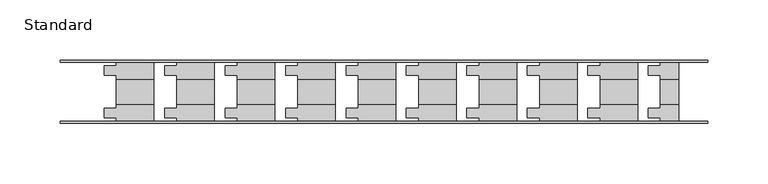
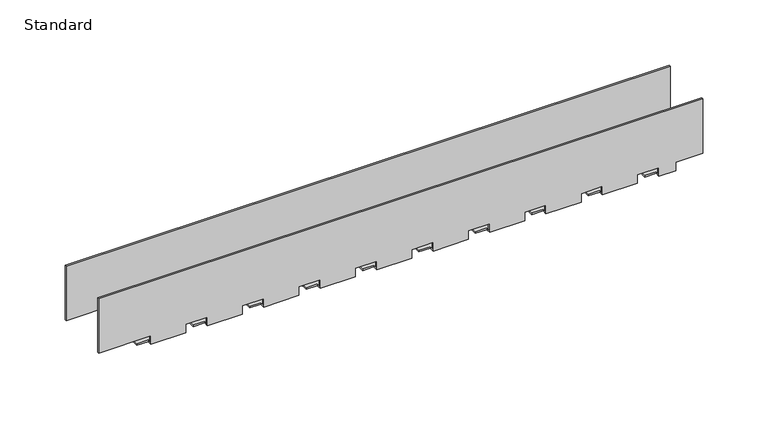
"""IFC4 building model written with IfcOpenShell, lengths in millimetres: electric appliance geometry, Bracket-Cross_Bar-Cablofil : Standard."""

from ifc_helpers import new_model, si_unit, origin, place, context, project, spatial, faceted_brep, source, transform, mapped, element, save


def standard_51789b41(model_context):
    return source(origin(), model_context, "Body", "Brep", [
        faceted_brep([(267.3769456, 25.8445, 56.5), (267.3769456, 24.2445, 56.5), (267.3769456, 24.2445, 5.4905759), (267.3769456, 25.8445, 5.4905759), (267.3769456, -24.2445, 56.5), (267.3769456, -25.8445, 56.5), (267.3769456, -25.8445, 5.4905759), (267.3769456, -24.2445, 5.4905759), (-267.3769456, -25.8445, 56.5), (-267.3769456, -24.2445, 56.5), (-267.3769456, -24.2445, 5.4905759), (-267.3769456, -25.8445, 5.4905759), (-267.3769456, 24.2445, 56.5), (-267.3769456, 25.8445, 56.5), (-267.3769456, 25.8445, 5.4905759), (-267.3769456, 24.2445, 5.4905759), (-221.3269456, -25.8445, 5.4905759), (-221.3269456, -25.8445, -2.5), (-190.3269456, -25.8445, -2.5), (-190.3269456, -25.8445, 5.4905759), (-171.3269456, -25.8445, 5.4905759), (-171.3269456, -25.8445, -2.5), (-140.3269456, -25.8445, -2.5), (-140.3269456, -25.8445, 5.4905759), (-121.3269456, -25.8445, 5.4905759), (-121.3269456, -25.8445, -2.5), (-90.3269456, -25.8445, -2.5), (-90.3269456, -25.8445, 5.4905759), (-71.3269456, -25.8445, 5.4905759), (-71.3269456, -25.8445, -2.5), (-40.3269456, -25.8445, -2.5), (-40.3269456, -25.8445, 5.4905759), (-21.3269456, -25.8445, 5.4905759), (-21.3269456, -25.8445, -2.5), (9.525, -25.8445, -2.5), (9.525, -25.8445, 5.4905759), (28.525, -25.8445, 5.4905759), (28.525, -25.8445, -2.5), (59.525, -25.8445, -2.5), (59.525, -25.8445, 5.4905759), (78.525, -25.8445, 5.4905759), (78.525, -25.8445, -2.5), (109.525, -25.8445, -2.5), (109.525, -25.8445, 5.4905759), (128.525, -25.8445, 5.4905759), (128.525, -25.8445, -2.5), (159.525, -25.8445, -2.5), (159.525, -25.8445, 5.4905759), (178.525, -25.8445, 5.4905759), (178.525, -25.8445, -2.5), (209.525, -25.8445, -2.5), (209.525, -25.8445, 5.4905759), (228.525, -25.8445, 5.4905759), (228.525, -25.8445, -2.5), (243.525, -25.8445, -2.5), (243.525, -25.8445, 5.4905759), (-221.3269456, -21.4945, -2.5), (-231.3269456, -21.4945, -2.5), (-231.3269456, -13.4945, -2.5), (-221.3269456, -13.4945, -2.5), (-221.3269456, -8.5094634, -2.5), (-190.3269456, -8.5094634, -2.5), (-171.3269456, -21.4945, -2.5), (-181.3269456, -21.4945, -2.5), (-181.3269456, -13.4945, -2.5), (-171.3269456, -13.4945, -2.5), (-171.3269456, -8.5094634, -2.5), (-140.3269456, -8.5094634, -2.5), (-121.3269456, -21.4945, -2.5), (-131.3269456, -21.4945, -2.5), (-131.3269456, -13.4945, -2.5), (-121.3269456, -13.4945, -2.5), (-121.3269456, -8.5094634, -2.5), (-90.3269456, -8.5094634, -2.5), (-71.3269456, -21.4945, -2.5), (-81.3269456, -21.4945, -2.5), (-81.3269456, -13.4945, -2.5), (-71.3269456, -13.4945, -2.5), (-71.3269456, -8.5094634, -2.5), (-40.3269456, -8.5094634, -2.5), (-21.3269456, -21.4945, -2.5), (-31.3269456, -21.4945, -2.5), (-31.3269456, -13.4945, -2.5), (-21.3269456, -13.4945, -2.5), (-21.3269456, -8.5094634, -2.5), (9.525, -8.5094634, -2.5), (28.525, -21.4945, -2.5), (18.525, -21.4945, -2.5), (18.525, -13.4945, -2.5), (28.525, -13.4945, -2.5), (28.525, -8.5094634, -2.5), (59.525, -8.5094634, -2.5), (78.525, -21.4945, -2.5), (68.525, -21.4945, -2.5), (68.525, -13.4945, -2.5), (78.525, -13.4945, -2.5), (78.525, -8.5094634, -2.5), (109.525, -8.5094634, -2.5), (128.525, -21.4945, -2.5), (118.525, -21.4945, -2.5), (118.525, -13.4945, -2.5), (128.525, -13.4945, -2.5), (128.525, -8.5094634, -2.5), (159.525, -8.5094634, -2.5), (178.525, -21.4945, -2.5), (168.525, -21.4945, -2.5), (168.525, -13.4945, -2.5), (178.525, -13.4945, -2.5), (178.525, -8.5094634, -2.5), (209.525, -8.5094634, -2.5), (228.525, -21.4945, -2.5), (218.525, -21.4945, -2.5), (218.525, -13.4945, -2.5), (228.525, -13.4945, -2.5), (228.525, -8.5094634, -2.5), (243.525, -8.5094634, -2.5), (-190.3269456, -8.5094634, 0.0), (-221.3269456, -8.5094634, 0.0), (-221.3269456, 8.5094634, 0.0), (-190.3269456, 8.5094634, 0.0), (-140.3269456, -8.5094634, 0.0), (-171.3269456, -8.5094634, 0.0), (-171.3269456, 8.5094634, 0.0), (-140.3269456, 8.5094634, 0.0), (-90.3269456, -8.5094634, 0.0), (-121.3269456, -8.5094634, 0.0), (-121.3269456, 8.5094634, 0.0), (-90.3269456, 8.5094634, 0.0), (-40.3269456, -8.5094634, 0.0), (-71.3269456, -8.5094634, 0.0), (-71.3269456, 8.5094634, 0.0), (-40.3269456, 8.5094634, 0.0), (9.525, -8.5094634, 0.0), (-21.3269456, -8.5094634, 0.0), (-21.3269456, 8.5094634, 0.0), (9.525, 8.5094634, 0.0), (59.525, -8.5094634, 0.0), (28.525, -8.5094634, 0.0), (28.525, 8.5094634, 0.0), (59.525, 8.5094634, 0.0), (109.525, -8.5094634, 0.0), (78.525, -8.5094634, 0.0), (78.525, 8.5094634, 0.0), (109.525, 8.5094634, 0.0), (159.525, -8.5094634, 0.0), (128.525, -8.5094634, 0.0), (128.525, 8.5094634, 0.0), (159.525, 8.5094634, 0.0), (209.525, -8.5094634, 0.0), (178.525, -8.5094634, 0.0), (178.525, 8.5094634, 0.0), (209.525, 8.5094634, 0.0), (243.525, -8.5094634, 0.0), (228.525, -8.5094634, 0.0), (228.525, 8.5094634, 0.0), (243.525, 8.5094634, 0.0), (-190.3269456, 8.5094634, -2.5), (-221.3269456, 8.5094634, -2.5), (-221.3269456, 13.4945, -2.5), (-231.3269456, 13.4945, -2.5), (-231.3269456, 21.4945, -2.5), (-221.3269456, 21.4945, -2.5), (-221.3269456, 25.8445, -2.5), (-190.3269456, 25.8445, -2.5), (-140.3269456, 8.5094634, -2.5), (-171.3269456, 8.5094634, -2.5), (-171.3269456, 13.4945, -2.5), (-181.3269456, 13.4945, -2.5), (-181.3269456, 21.4945, -2.5), (-171.3269456, 21.4945, -2.5), (-171.3269456, 25.8445, -2.5), (-140.3269456, 25.8445, -2.5), (-90.3269456, 8.5094634, -2.5), (-121.3269456, 8.5094634, -2.5), (-121.3269456, 13.4945, -2.5), (-131.3269456, 13.4945, -2.5), (-131.3269456, 21.4945, -2.5), (-121.3269456, 21.4945, -2.5), (-121.3269456, 25.8445, -2.5), (-90.3269456, 25.8445, -2.5), (-40.3269456, 8.5094634, -2.5), (-71.3269456, 8.5094634, -2.5), (-71.3269456, 13.4945, -2.5), (-81.3269456, 13.4945, -2.5), (-81.3269456, 21.4945, -2.5), (-71.3269456, 21.4945, -2.5), (-71.3269456, 25.8445, -2.5), (-40.3269456, 25.8445, -2.5), (9.525, 8.5094634, -2.5), (-21.3269456, 8.5094634, -2.5), (-21.3269456, 13.4945, -2.5), (-31.3269456, 13.4945, -2.5), (-31.3269456, 21.4945, -2.5), (-21.3269456, 21.4945, -2.5), (-21.3269456, 25.8445, -2.5), (9.525, 25.8445, -2.5), (59.525, 8.5094634, -2.5), (28.525, 8.5094634, -2.5), (28.525, 13.4945, -2.5), (18.525, 13.4945, -2.5), (18.525, 21.4945, -2.5), (28.525, 21.4945, -2.5), (28.525, 25.8445, -2.5), (59.525, 25.8445, -2.5), (109.525, 8.5094634, -2.5), (78.525, 8.5094634, -2.5), (78.525, 13.4945, -2.5), (68.525, 13.4945, -2.5), (68.525, 21.4945, -2.5), (78.525, 21.4945, -2.5), (78.525, 25.8445, -2.5), (109.525, 25.8445, -2.5), (159.525, 8.5094634, -2.5), (128.525, 8.5094634, -2.5), (128.525, 13.4945, -2.5), (118.525, 13.4945, -2.5), (118.525, 21.4945, -2.5), (128.525, 21.4945, -2.5), (128.525, 25.8445, -2.5), (159.525, 25.8445, -2.5), (209.525, 8.5094634, -2.5), (178.525, 8.5094634, -2.5), (178.525, 13.4945, -2.5), (168.525, 13.4945, -2.5), (168.525, 21.4945, -2.5), (178.525, 21.4945, -2.5), (178.525, 25.8445, -2.5), (209.525, 25.8445, -2.5), (243.525, 8.5094634, -2.5), (228.525, 8.5094634, -2.5), (228.525, 13.4945, -2.5), (218.525, 13.4945, -2.5), (218.525, 21.4945, -2.5), (228.525, 21.4945, -2.5), (228.525, 25.8445, -2.5), (243.525, 25.8445, -2.5), (243.525, 25.8445, 5.4905759), (228.525, 25.8445, 5.4905759), (209.525, 25.8445, 5.4905759), (178.525, 25.8445, 5.4905759), (159.525, 25.8445, 5.4905759), (128.525, 25.8445, 5.4905759), (109.525, 25.8445, 5.4905759), (78.525, 25.8445, 5.4905759), (59.525, 25.8445, 5.4905759), (28.525, 25.8445, 5.4905759), (9.525, 25.8445, 5.4905759), (-21.3269456, 25.8445, 5.4905759), (-40.3269456, 25.8445, 5.4905759), (-71.3269456, 25.8445, 5.4905759), (-90.3269456, 25.8445, 5.4905759), (-121.3269456, 25.8445, 5.4905759), (-140.3269456, 25.8445, 5.4905759), (-171.3269456, 25.8445, 5.4905759), (-190.3269456, 25.8445, 5.4905759), (-221.3269456, 25.8445, 5.4905759), (-221.3269456, 24.2445, 5.4905759), (-221.3269456, 24.2445, -0.9), (-190.3269456, 24.2445, -0.9), (-190.3269456, 24.2445, 5.4905759), (-171.3269456, 24.2445, 5.4905759), (-171.3269456, 24.2445, -0.9), (-140.3269456, 24.2445, -0.9), (-140.3269456, 24.2445, 5.4905759), (-121.3269456, 24.2445, 5.4905759), (-121.3269456, 24.2445, -0.9), (-90.3269456, 24.2445, -0.9), (-90.3269456, 24.2445, 5.4905759), (-71.3269456, 24.2445, 5.4905759), (-71.3269456, 24.2445, -0.9), (-40.3269456, 24.2445, -0.9), (-40.3269456, 24.2445, 5.4905759), (-21.3269456, 24.2445, 5.4905759), (-21.3269456, 24.2445, -0.9), (9.525, 24.2445, -0.9), (9.525, 24.2445, 5.4905759), (28.525, 24.2445, 5.4905759), (28.525, 24.2445, -0.9), (59.525, 24.2445, -0.9), (59.525, 24.2445, 5.4905759), (78.525, 24.2445, 5.4905759), (78.525, 24.2445, -0.9), (109.525, 24.2445, -0.9), (109.525, 24.2445, 5.4905759), (128.525, 24.2445, 5.4905759), (128.525, 24.2445, -0.9), (159.525, 24.2445, -0.9), (159.525, 24.2445, 5.4905759), (178.525, 24.2445, 5.4905759), (178.525, 24.2445, -0.9), (209.525, 24.2445, -0.9), (209.525, 24.2445, 5.4905759), (228.525, 24.2445, 5.4905759), (228.525, 24.2445, -0.9), (243.525, 24.2445, -0.9), (243.525, 24.2445, 5.4905759), (-221.3269456, 21.4945, -0.9), (-231.3269456, 21.4945, -0.9), (-231.3269456, 13.4945, -0.9), (-221.3269456, 13.4945, -0.9), (-221.3269456, 10.1096634, -0.9), (-190.3269456, 10.1096634, -0.9), (-171.3269456, 21.4945, -0.9), (-181.3269456, 21.4945, -0.9), (-181.3269456, 13.4945, -0.9), (-171.3269456, 13.4945, -0.9), (-171.3269456, 10.1096634, -0.9), (-140.3269456, 10.1096634, -0.9), (-121.3269456, 21.4945, -0.9), (-131.3269456, 21.4945, -0.9), (-131.3269456, 13.4945, -0.9), (-121.3269456, 13.4945, -0.9), (-121.3269456, 10.1096634, -0.9), (-90.3269456, 10.1096634, -0.9), (-71.3269456, 21.4945, -0.9), (-81.3269456, 21.4945, -0.9), (-81.3269456, 13.4945, -0.9), (-71.3269456, 13.4945, -0.9), (-71.3269456, 10.1096634, -0.9), (-40.3269456, 10.1096634, -0.9), (-21.3269456, 21.4945, -0.9), (-31.3269456, 21.4945, -0.9), (-31.3269456, 13.4945, -0.9), (-21.3269456, 13.4945, -0.9), (-21.3269456, 10.1096634, -0.9), (9.525, 10.1096634, -0.9), (28.525, 21.4945, -0.9), (18.525, 21.4945, -0.9), (18.525, 13.4945, -0.9), (28.525, 13.4945, -0.9), (28.525, 10.1096634, -0.9), (59.525, 10.1096634, -0.9), (78.525, 21.4945, -0.9), (68.525, 21.4945, -0.9), (68.525, 13.4945, -0.9), (78.525, 13.4945, -0.9), (78.525, 10.1096634, -0.9), (109.525, 10.1096634, -0.9), (128.525, 21.4945, -0.9), (118.525, 21.4945, -0.9), (118.525, 13.4945, -0.9), (128.525, 13.4945, -0.9), (128.525, 10.1096634, -0.9), (159.525, 10.1096634, -0.9), (178.525, 21.4945, -0.9), (168.525, 21.4945, -0.9), (168.525, 13.4945, -0.9), (178.525, 13.4945, -0.9), (178.525, 10.1096634, -0.9), (209.525, 10.1096634, -0.9), (228.525, 21.4945, -0.9), (218.525, 21.4945, -0.9), (218.525, 13.4945, -0.9), (228.525, 13.4945, -0.9), (228.525, 10.1096634, -0.9), (243.525, 10.1096634, -0.9), (-190.3269456, 10.1096634, 1.6), (-221.3269456, 10.1096634, 1.6), (-221.3269456, -10.1096634, 1.6), (-190.3269456, -10.1096634, 1.6), (-140.3269456, 10.1096634, 1.6), (-171.3269456, 10.1096634, 1.6), (-171.3269456, -10.1096634, 1.6), (-140.3269456, -10.1096634, 1.6), (-90.3269456, 10.1096634, 1.6), (-121.3269456, 10.1096634, 1.6), (-121.3269456, -10.1096634, 1.6), (-90.3269456, -10.1096634, 1.6), (-40.3269456, 10.1096634, 1.6), (-71.3269456, 10.1096634, 1.6), (-71.3269456, -10.1096634, 1.6), (-40.3269456, -10.1096634, 1.6), (9.525, 10.1096634, 1.6), (-21.3269456, 10.1096634, 1.6), (-21.3269456, -10.1096634, 1.6), (9.525, -10.1096634, 1.6), (59.525, 10.1096634, 1.6), (28.525, 10.1096634, 1.6), (28.525, -10.1096634, 1.6), (59.525, -10.1096634, 1.6), (109.525, 10.1096634, 1.6), (78.525, 10.1096634, 1.6), (78.525, -10.1096634, 1.6), (109.525, -10.1096634, 1.6), (159.525, 10.1096634, 1.6), (128.525, 10.1096634, 1.6), (128.525, -10.1096634, 1.6), (159.525, -10.1096634, 1.6), (209.525, 10.1096634, 1.6), (178.525, 10.1096634, 1.6), (178.525, -10.1096634, 1.6), (209.525, -10.1096634, 1.6), (243.525, 10.1096634, 1.6), (228.525, 10.1096634, 1.6), (228.525, -10.1096634, 1.6), (243.525, -10.1096634, 1.6), (-190.3269456, -10.1096634, -0.9), (-221.3269456, -10.1096634, -0.9), (-221.3269456, -13.4945, -0.9), (-231.3269456, -13.4945, -0.9), (-231.3269456, -21.4945, -0.9), (-221.3269456, -21.4945, -0.9), (-221.3269456, -24.2445, -0.9), (-190.3269456, -24.2445, -0.9), (-140.3269456, -10.1096634, -0.9), (-171.3269456, -10.1096634, -0.9), (-171.3269456, -13.4945, -0.9), (-181.3269456, -13.4945, -0.9), (-181.3269456, -21.4945, -0.9), (-171.3269456, -21.4945, -0.9), (-171.3269456, -24.2445, -0.9), (-140.3269456, -24.2445, -0.9), (-90.3269456, -10.1096634, -0.9), (-121.3269456, -10.1096634, -0.9), (-121.3269456, -13.4945, -0.9), (-131.3269456, -13.4945, -0.9), (-131.3269456, -21.4945, -0.9), (-121.3269456, -21.4945, -0.9), (-121.3269456, -24.2445, -0.9), (-90.3269456, -24.2445, -0.9), (-40.3269456, -10.1096634, -0.9), (-71.3269456, -10.1096634, -0.9), (-71.3269456, -13.4945, -0.9), (-81.3269456, -13.4945, -0.9), (-81.3269456, -21.4945, -0.9), (-71.3269456, -21.4945, -0.9), (-71.3269456, -24.2445, -0.9), (-40.3269456, -24.2445, -0.9), (9.525, -10.1096634, -0.9), (-21.3269456, -10.1096634, -0.9), (-21.3269456, -13.4945, -0.9), (-31.3269456, -13.4945, -0.9), (-31.3269456, -21.4945, -0.9), (-21.3269456, -21.4945, -0.9), (-21.3269456, -24.2445, -0.9), (9.525, -24.2445, -0.9), (59.525, -10.1096634, -0.9), (28.525, -10.1096634, -0.9), (28.525, -13.4945, -0.9), (18.525, -13.4945, -0.9), (18.525, -21.4945, -0.9), (28.525, -21.4945, -0.9), (28.525, -24.2445, -0.9), (59.525, -24.2445, -0.9), (109.525, -10.1096634, -0.9), (78.525, -10.1096634, -0.9), (78.525, -13.4945, -0.9), (68.525, -13.4945, -0.9), (68.525, -21.4945, -0.9), (78.525, -21.4945, -0.9), (78.525, -24.2445, -0.9), (109.525, -24.2445, -0.9), (159.525, -10.1096634, -0.9), (128.525, -10.1096634, -0.9), (128.525, -13.4945, -0.9), (118.525, -13.4945, -0.9), (118.525, -21.4945, -0.9), (128.525, -21.4945, -0.9), (128.525, -24.2445, -0.9), (159.525, -24.2445, -0.9), (209.525, -10.1096634, -0.9), (178.525, -10.1096634, -0.9), (178.525, -13.4945, -0.9), (168.525, -13.4945, -0.9), (168.525, -21.4945, -0.9), (178.525, -21.4945, -0.9), (178.525, -24.2445, -0.9), (209.525, -24.2445, -0.9), (243.525, -10.1096634, -0.9), (228.525, -10.1096634, -0.9), (228.525, -13.4945, -0.9), (218.525, -13.4945, -0.9), (218.525, -21.4945, -0.9), (228.525, -21.4945, -0.9), (228.525, -24.2445, -0.9), (243.525, -24.2445, -0.9), (243.525, -24.2445, 5.4905759), (228.525, -24.2445, 5.4905759), (209.525, -24.2445, 5.4905759), (178.525, -24.2445, 5.4905759), (159.525, -24.2445, 5.4905759), (128.525, -24.2445, 5.4905759), (109.525, -24.2445, 5.4905759), (78.525, -24.2445, 5.4905759), (59.525, -24.2445, 5.4905759), (28.525, -24.2445, 5.4905759), (9.525, -24.2445, 5.4905759), (-21.3269456, -24.2445, 5.4905759), (-40.3269456, -24.2445, 5.4905759), (-71.3269456, -24.2445, 5.4905759), (-90.3269456, -24.2445, 5.4905759), (-121.3269456, -24.2445, 5.4905759), (-140.3269456, -24.2445, 5.4905759), (-171.3269456, -24.2445, 5.4905759), (-190.3269456, -24.2445, 5.4905759), (-221.3269456, -24.2445, 5.4905759)], [[[0, 1, 2, 3]], [[4, 5, 6, 7]], [[8, 9, 10, 11]], [[12, 13, 14, 15]], [[5, 8, 11, 16, 17, 18, 19, 20, 21, 22, 23, 24, 25, 26, 27, 28, 29, 30, 31, 32, 33, 34, 35, 36, 37, 38, 39, 40, 41, 42, 43, 44, 45, 46, 47, 48, 49, 50, 51, 52, 53, 54, 55, 6]], [[18, 17, 56, 57, 58, 59, 60, 61]], [[22, 21, 62, 63, 64, 65, 66, 67]], [[26, 25, 68, 69, 70, 71, 72, 73]], [[30, 29, 74, 75, 76, 77, 78, 79]], [[34, 33, 80, 81, 82, 83, 84, 85]], [[38, 37, 86, 87, 88, 89, 90, 91]], [[42, 41, 92, 93, 94, 95, 96, 97]], [[46, 45, 98, 99, 100, 101, 102, 103]], [[50, 49, 104, 105, 106, 107, 108, 109]], [[54, 53, 110, 111, 112, 113, 114, 115]], [[116, 117, 118, 119]], [[120, 121, 122, 123]], [[124, 125, 126, 127]], [[128, 129, 130, 131]], [[132, 133, 134, 135]], [[136, 137, 138, 139]], [[140, 141, 142, 143]], [[144, 145, 146, 147]], [[148, 149, 150, 151]], [[152, 153, 154, 155]], [[156, 157, 158, 159, 160, 161, 162, 163]], [[164, 165, 166, 167, 168, 169, 170, 171]], [[172, 173, 174, 175, 176, 177, 178, 179]], [[180, 181, 182, 183, 184, 185, 186, 187]], [[188, 189, 190, 191, 192, 193, 194, 195]], [[196, 197, 198, 199, 200, 201, 202, 203]], [[204, 205, 206, 207, 208, 209, 210, 211]], [[212, 213, 214, 215, 216, 217, 218, 219]], [[220, 221, 222, 223, 224, 225, 226, 227]], [[228, 229, 230, 231, 232, 233, 234, 235]], [[13, 0, 3, 236, 235, 234, 237, 238, 227, 226, 239, 240, 219, 218, 241, 242, 211, 210, 243, 244, 203, 202, 245, 246, 195, 194, 247, 248, 187, 186, 249, 250, 179, 178, 251, 252, 171, 170, 253, 254, 163, 162, 255, 14]], [[1, 0, 13, 12]], [[1, 12, 15, 256, 257, 258, 259, 260, 261, 262, 263, 264, 265, 266, 267, 268, 269, 270, 271, 272, 273, 274, 275, 276, 277, 278, 279, 280, 281, 282, 283, 284, 285, 286, 287, 288, 289, 290, 291, 292, 293, 294, 295, 2]], [[258, 257, 296, 297, 298, 299, 300, 301]], [[262, 261, 302, 303, 304, 305, 306, 307]], [[266, 265, 308, 309, 310, 311, 312, 313]], [[270, 269, 314, 315, 316, 317, 318, 319]], [[274, 273, 320, 321, 322, 323, 324, 325]], [[278, 277, 326, 327, 328, 329, 330, 331]], [[282, 281, 332, 333, 334, 335, 336, 337]], [[286, 285, 338, 339, 340, 341, 342, 343]], [[290, 289, 344, 345, 346, 347, 348, 349]], [[294, 293, 350, 351, 352, 353, 354, 355]], [[356, 357, 358, 359]], [[360, 361, 362, 363]], [[364, 365, 366, 367]], [[368, 369, 370, 371]], [[372, 373, 374, 375]], [[376, 377, 378, 379]], [[380, 381, 382, 383]], [[384, 385, 386, 387]], [[388, 389, 390, 391]], [[392, 393, 394, 395]], [[396, 397, 398, 399, 400, 401, 402, 403]], [[404, 405, 406, 407, 408, 409, 410, 411]], [[412, 413, 414, 415, 416, 417, 418, 419]], [[420, 421, 422, 423, 424, 425, 426, 427]], [[428, 429, 430, 431, 432, 433, 434, 435]], [[436, 437, 438, 439, 440, 441, 442, 443]], [[444, 445, 446, 447, 448, 449, 450, 451]], [[452, 453, 454, 455, 456, 457, 458, 459]], [[460, 461, 462, 463, 464, 465, 466, 467]], [[468, 469, 470, 471, 472, 473, 474, 475]], [[9, 4, 7, 476, 475, 474, 477, 478, 467, 466, 479, 480, 459, 458, 481, 482, 451, 450, 483, 484, 443, 442, 485, 486, 435, 434, 487, 488, 427, 426, 489, 490, 419, 418, 491, 492, 411, 410, 493, 494, 403, 402, 495, 10]], [[5, 4, 9, 8]], [[255, 256, 15, 14]], [[495, 16, 11, 10]], [[493, 20, 19, 494]], [[259, 254, 253, 260]], [[491, 24, 23, 492]], [[263, 252, 251, 264]], [[489, 28, 27, 490]], [[267, 250, 249, 268]], [[487, 32, 31, 488]], [[271, 248, 247, 272]], [[485, 36, 35, 486]], [[275, 246, 245, 276]], [[483, 40, 39, 484]], [[279, 244, 243, 280]], [[481, 44, 43, 482]], [[283, 242, 241, 284]], [[479, 48, 47, 480]], [[287, 240, 239, 288]], [[477, 52, 51, 478]], [[291, 238, 237, 292]], [[295, 236, 3, 2]], [[55, 476, 7, 6]], [[256, 255, 162, 161, 296, 257]], [[296, 161, 160, 297]], [[297, 160, 159, 298]], [[298, 159, 158, 299]], [[299, 158, 157, 118, 117, 60, 59, 398, 397, 358, 357, 300]], [[254, 259, 258, 301, 356, 359, 396, 403, 494, 19, 18, 61, 116, 119, 156, 163]], [[260, 253, 170, 169, 302, 261]], [[302, 169, 168, 303]], [[303, 168, 167, 304]], [[304, 167, 166, 305]], [[305, 166, 165, 122, 121, 66, 65, 406, 405, 362, 361, 306]], [[252, 263, 262, 307, 360, 363, 404, 411, 492, 23, 22, 67, 120, 123, 164, 171]], [[264, 251, 178, 177, 308, 265]], [[308, 177, 176, 309]], [[309, 176, 175, 310]], [[310, 175, 174, 311]], [[311, 174, 173, 126, 125, 72, 71, 414, 413, 366, 365, 312]], [[250, 267, 266, 313, 364, 367, 412, 419, 490, 27, 26, 73, 124, 127, 172, 179]], [[268, 249, 186, 185, 314, 269]], [[314, 185, 184, 315]], [[315, 184, 183, 316]], [[316, 183, 182, 317]], [[317, 182, 181, 130, 129, 78, 77, 422, 421, 370, 369, 318]], [[248, 271, 270, 319, 368, 371, 420, 427, 488, 31, 30, 79, 128, 131, 180, 187]], [[272, 247, 194, 193, 320, 273]], [[320, 193, 192, 321]], [[321, 192, 191, 322]], [[322, 191, 190, 323]], [[323, 190, 189, 134, 133, 84, 83, 430, 429, 374, 373, 324]], [[246, 275, 274, 325, 372, 375, 428, 435, 486, 35, 34, 85, 132, 135, 188, 195]], [[276, 245, 202, 201, 326, 277]], [[326, 201, 200, 327]], [[327, 200, 199, 328]], [[328, 199, 198, 329]], [[329, 198, 197, 138, 137, 90, 89, 438, 437, 378, 377, 330]], [[244, 279, 278, 331, 376, 379, 436, 443, 484, 39, 38, 91, 136, 139, 196, 203]], [[280, 243, 210, 209, 332, 281]], [[332, 209, 208, 333]], [[333, 208, 207, 334]], [[334, 207, 206, 335]], [[335, 206, 205, 142, 141, 96, 95, 446, 445, 382, 381, 336]], [[242, 283, 282, 337, 380, 383, 444, 451, 482, 43, 42, 97, 140, 143, 204, 211]], [[284, 241, 218, 217, 338, 285]], [[338, 217, 216, 339]], [[339, 216, 215, 340]], [[340, 215, 214, 341]], [[341, 214, 213, 146, 145, 102, 101, 454, 453, 386, 385, 342]], [[240, 287, 286, 343, 384, 387, 452, 459, 480, 47, 46, 103, 144, 147, 212, 219]], [[288, 239, 226, 225, 344, 289]], [[344, 225, 224, 345]], [[345, 224, 223, 346]], [[346, 223, 222, 347]], [[347, 222, 221, 150, 149, 108, 107, 462, 461, 390, 389, 348]], [[238, 291, 290, 349, 388, 391, 460, 467, 478, 51, 50, 109, 148, 151, 220, 227]], [[292, 237, 234, 233, 350, 293]], [[350, 233, 232, 351]], [[351, 232, 231, 352]], [[352, 231, 230, 353]], [[353, 230, 229, 154, 153, 114, 113, 470, 469, 394, 393, 354]], [[236, 295, 294, 355, 392, 395, 468, 475, 476, 55, 54, 115, 152, 155, 228, 235]], [[117, 116, 61, 60]], [[121, 120, 67, 66]], [[125, 124, 73, 72]], [[129, 128, 79, 78]], [[133, 132, 85, 84]], [[137, 136, 91, 90]], [[141, 140, 97, 96]], [[145, 144, 103, 102]], [[149, 148, 109, 108]], [[153, 152, 115, 114]], [[157, 156, 119, 118]], [[165, 164, 123, 122]], [[173, 172, 127, 126]], [[181, 180, 131, 130]], [[189, 188, 135, 134]], [[197, 196, 139, 138]], [[205, 204, 143, 142]], [[213, 212, 147, 146]], [[221, 220, 151, 150]], [[229, 228, 155, 154]], [[357, 356, 301, 300]], [[361, 360, 307, 306]], [[365, 364, 313, 312]], [[369, 368, 319, 318]], [[373, 372, 325, 324]], [[377, 376, 331, 330]], [[381, 380, 337, 336]], [[385, 384, 343, 342]], [[389, 388, 349, 348]], [[393, 392, 355, 354]], [[397, 396, 359, 358]], [[405, 404, 363, 362]], [[413, 412, 367, 366]], [[421, 420, 371, 370]], [[429, 428, 375, 374]], [[437, 436, 379, 378]], [[445, 444, 383, 382]], [[453, 452, 387, 386]], [[461, 460, 391, 390]], [[469, 468, 395, 394]], [[398, 59, 58, 399]], [[399, 58, 57, 400]], [[400, 57, 56, 401]], [[16, 495, 402, 401, 56, 17]], [[406, 65, 64, 407]], [[407, 64, 63, 408]], [[408, 63, 62, 409]], [[20, 493, 410, 409, 62, 21]], [[414, 71, 70, 415]], [[415, 70, 69, 416]], [[416, 69, 68, 417]], [[24, 491, 418, 417, 68, 25]], [[422, 77, 76, 423]], [[423, 76, 75, 424]], [[424, 75, 74, 425]], [[28, 489, 426, 425, 74, 29]], [[430, 83, 82, 431]], [[431, 82, 81, 432]], [[432, 81, 80, 433]], [[32, 487, 434, 433, 80, 33]], [[438, 89, 88, 439]], [[439, 88, 87, 440]], [[440, 87, 86, 441]], [[36, 485, 442, 441, 86, 37]], [[446, 95, 94, 447]], [[447, 94, 93, 448]], [[448, 93, 92, 449]], [[40, 483, 450, 449, 92, 41]], [[454, 101, 100, 455]], [[455, 100, 99, 456]], [[456, 99, 98, 457]], [[44, 481, 458, 457, 98, 45]], [[462, 107, 106, 463]], [[463, 106, 105, 464]], [[464, 105, 104, 465]], [[48, 479, 466, 465, 104, 49]], [[470, 113, 112, 471]], [[471, 112, 111, 472]], [[472, 111, 110, 473]], [[52, 477, 474, 473, 110, 53]]]),
    ])


if __name__ == "__main__":
    model = new_model("IFC4")
    model_context = context("Model", 3, world=origin())
    ifc_project = project(units=[si_unit("LENGTHUNIT", "METRE", prefix="MILLI")], contexts=[model_context])
    site = spatial("IfcSite", under=ifc_project)
    building = spatial("IfcBuilding", under=site)
    placement = place(None, origin())
    standard_shape = standard_51789b41(model_context)
    element("IfcElectricAppliance", 1, ObjectType="Bracket-Cross_Bar-Cablofil : Standard", at=placement, inside=building, context=model_context, shape_type="MappedRepresentation", body=[
        mapped(standard_shape, transform((0.0, 0.0, 0.0), x_axis=(1.0, 0.0, 0.0), y_axis=(0.0, 1.0, 0.0), z_axis=(0.0, 0.0, 1.0))),
    ])
    save(model, "model.ifc")
